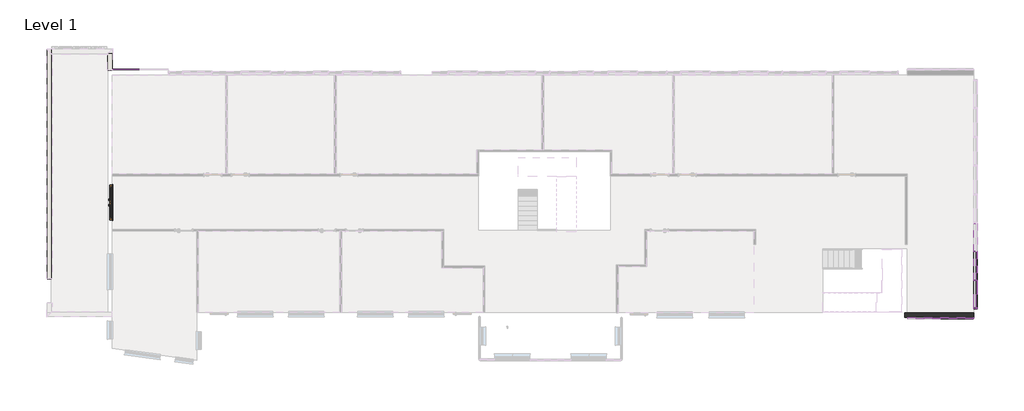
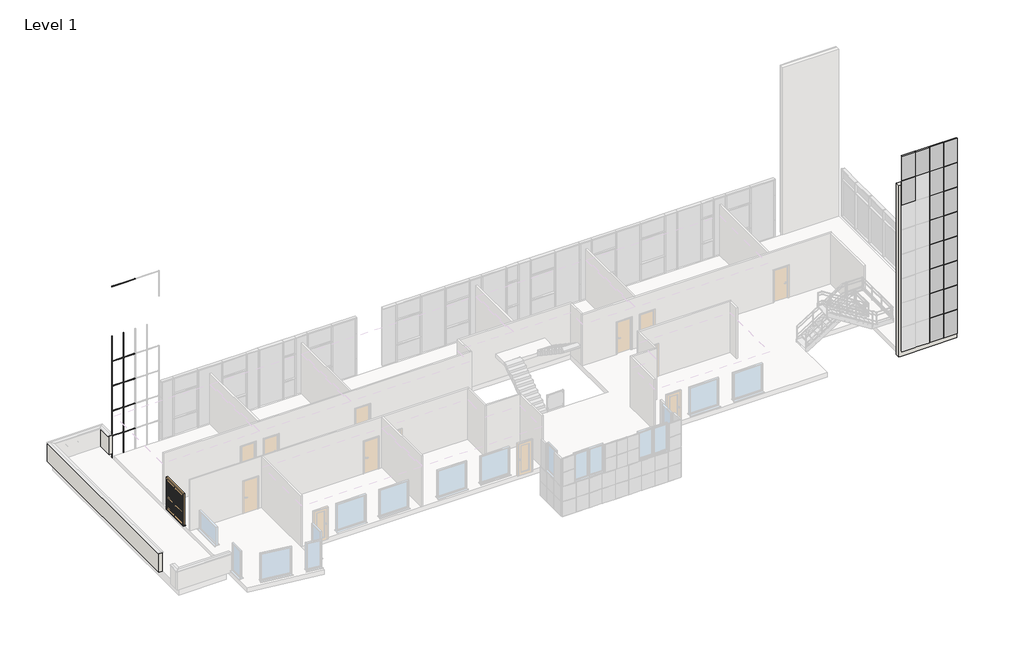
# One storey, part 3 of 10: 84 members, 23 plates, 3 walls, 1 door.
"""IFC4 building model written with IfcOpenShell, lengths in millimetres."""

from ifc_helpers import new_model, si_unit, frame, origin, place, context, project, spatial, polyline, outline, extrude, faceted_brep, transform, mapped, element, save
from components import doors_extdbl_louvre_w_transome_1810x2110mm_eca85ab6, rectangular_mullion_25x25mm_c4f882d5, rectangular_mullion_25x25mm_bd52b051, rectangular_mullion_25x25mm_aa09272d, rectangular_mullion_25x25mm_87b81b05, rectangular_mullion_25x25mm_c838776f, rectangular_mullion_25x25mm_c524c6a9, rectangular_mullion_25x25mm_a3ff25c1, rectangular_mullion_25x25mm_a7b21d2d, rectangular_mullion_25x25mm_c63ed219, rectangular_mullion_25x25mm_d2893cce, rectangular_mullion_25x25mm_a2025cdc, rectangular_mullion_25x25mm_730bac77, rectangular_mullion_25x25mm_b0a37639, rectangular_mullion_50x180mm_b21090a6, rectangular_mullion_50x180mm_c0bd3b18, rectangular_mullion_50x180mm_ec7f3dde, rectangular_mullion_50x180mm_ee9895d7, rectangular_mullion_50x180mm_69a7fca8, rectangular_mullion_50x180mm_43fab6d0, rectangular_mullion_50x180mm_84521c55, rectangular_mullion_50x180mm_f9fd6882, curtain_panels_solid_solid_panel_green_532d5a67, system_panel_glazed_7f1c0332, system_panel_glazed_68cc8840, system_panel_glazed_53acddae, system_panel_glazed_262eb8f8

model = new_model("IFC4")

# Units and contexts
model_context = context("Model", 3, world=origin())
ifc_project = project(units=[si_unit("LENGTHUNIT", "METRE", prefix="MILLI")], contexts=[model_context])

# Site, building, storey
site = spatial("IfcSite", under=ifc_project)
building = spatial("IfcBuilding", under=site)
storey = spatial("IfcBuildingStorey", under=building, Name="Level 1", Elevation=3750.0)

# Door
placement = place(None, origin())
doors_extdbl_louvre_w_transome_1810x2110mm_shape = doors_extdbl_louvre_w_transome_1810x2110mm_eca85ab6(model_context)
element("IfcDoor", 1, ObjectType="Doors_ExtDbl_Louvre_w-Transome : 1810x2110mm", at=placement, inside=storey, context=model_context, shape_type="MappedRepresentation", body=[
    mapped(doors_extdbl_louvre_w_transome_1810x2110mm_shape, transform((-1536.7223222, 2413.8986039, 3750.0), x_axis=(0.0, -1.0, 0.0), y_axis=(1.0, 0.0, 0.0), z_axis=(0.0, 0.0, 1.0))),
])

# Members
rectangular_mullion_25x25mm_shape = rectangular_mullion_25x25mm_c4f882d5(model_context)
element("IfcMember", 2, ObjectType="Rectangular Mullion : 25x25mm", at=placement, inside=storey, context=model_context, shape_type="MappedRepresentation", body=[
    mapped(rectangular_mullion_25x25mm_shape, transform((42240.5442365, -3560.0053409, 5353.125), x_axis=(0.0, 0.0, 1.0), y_axis=(0.0, 1.0, 0.0), z_axis=(-1.0, 0.0, 0.0))),
])
element("IfcMember", 3, ObjectType="Rectangular Mullion : 25x25mm", at=placement, inside=storey, context=model_context, shape_type="MappedRepresentation", body=[
    mapped(rectangular_mullion_25x25mm_shape, transform((41387.2942367, -3560.0053409, 5353.125), x_axis=(0.0, 0.0, 1.0), y_axis=(0.0, 1.0, 0.0), z_axis=(-1.0, 0.0, 0.0))),
])
element("IfcMember", 4, ObjectType="Rectangular Mullion : 25x25mm", at=placement, inside=storey, context=model_context, shape_type="MappedRepresentation", body=[
    mapped(rectangular_mullion_25x25mm_shape, transform((42240.5442365, -3560.0053409, 6943.75), x_axis=(0.0, 0.0, 1.0), y_axis=(0.0, 1.0, 0.0), z_axis=(-1.0, 0.0, 0.0))),
])
element("IfcMember", 5, ObjectType="Rectangular Mullion : 25x25mm", at=placement, inside=storey, context=model_context, shape_type="MappedRepresentation", body=[
    mapped(rectangular_mullion_25x25mm_shape, transform((41387.2942367, -3560.0053409, 6943.75), x_axis=(0.0, 0.0, 1.0), y_axis=(0.0, 1.0, 0.0), z_axis=(-1.0, 0.0, 0.0))),
])
element("IfcMember", 6, ObjectType="Rectangular Mullion : 25x25mm", at=placement, inside=storey, context=model_context, shape_type="MappedRepresentation", body=[
    mapped(rectangular_mullion_25x25mm_shape, transform((42240.5442365, -3560.0053409, 8534.375), x_axis=(0.0, 0.0, 1.0), y_axis=(0.0, 1.0, 0.0), z_axis=(-1.0, 0.0, 0.0))),
])
element("IfcMember", 7, ObjectType="Rectangular Mullion : 25x25mm", at=placement, inside=storey, context=model_context, shape_type="MappedRepresentation", body=[
    mapped(rectangular_mullion_25x25mm_shape, transform((41387.2942367, -3560.0053409, 8534.375), x_axis=(0.0, 0.0, 1.0), y_axis=(0.0, 1.0, 0.0), z_axis=(-1.0, 0.0, 0.0))),
])
element("IfcMember", 8, ObjectType="Rectangular Mullion : 25x25mm", at=placement, inside=storey, context=model_context, shape_type="MappedRepresentation", body=[
    mapped(rectangular_mullion_25x25mm_shape, transform((40534.0442368, -3560.0053409, 8534.375), x_axis=(0.0, 0.0, 1.0), y_axis=(0.0, 1.0, 0.0), z_axis=(-1.0, 0.0, 0.0))),
])
element("IfcMember", 9, ObjectType="Rectangular Mullion : 25x25mm", at=placement, inside=storey, context=model_context, shape_type="MappedRepresentation", body=[
    mapped(rectangular_mullion_25x25mm_shape, transform((42240.5442365, -3560.0053409, 10125.0), x_axis=(0.0, 0.0, 1.0), y_axis=(0.0, 1.0, 0.0), z_axis=(-1.0, 0.0, 0.0))),
])
element("IfcMember", 10, ObjectType="Rectangular Mullion : 25x25mm", at=placement, inside=storey, context=model_context, shape_type="MappedRepresentation", body=[
    mapped(rectangular_mullion_25x25mm_shape, transform((41387.2942367, -3560.0053409, 10125.0), x_axis=(0.0, 0.0, 1.0), y_axis=(0.0, 1.0, 0.0), z_axis=(-1.0, 0.0, 0.0))),
])
element("IfcMember", 11, ObjectType="Rectangular Mullion : 25x25mm", at=placement, inside=storey, context=model_context, shape_type="MappedRepresentation", body=[
    mapped(rectangular_mullion_25x25mm_shape, transform((40534.0442368, -3560.0053409, 10125.0), x_axis=(0.0, 0.0, 1.0), y_axis=(0.0, 1.0, 0.0), z_axis=(-1.0, 0.0, 0.0))),
])
element("IfcMember", 12, ObjectType="Rectangular Mullion : 25x25mm", at=placement, inside=storey, context=model_context, shape_type="MappedRepresentation", body=[
    mapped(rectangular_mullion_25x25mm_shape, transform((42240.5442365, -3560.0053409, 11715.625), x_axis=(0.0, 0.0, 1.0), y_axis=(0.0, 1.0, 0.0), z_axis=(-1.0, 0.0, 0.0))),
])
element("IfcMember", 13, ObjectType="Rectangular Mullion : 25x25mm", at=placement, inside=storey, context=model_context, shape_type="MappedRepresentation", body=[
    mapped(rectangular_mullion_25x25mm_shape, transform((41387.2942367, -3560.0053409, 11715.625), x_axis=(0.0, 0.0, 1.0), y_axis=(0.0, 1.0, 0.0), z_axis=(-1.0, 0.0, 0.0))),
])
element("IfcMember", 14, ObjectType="Rectangular Mullion : 25x25mm", at=placement, inside=storey, context=model_context, shape_type="MappedRepresentation", body=[
    mapped(rectangular_mullion_25x25mm_shape, transform((40534.0442368, -3560.0053409, 11715.625), x_axis=(0.0, 0.0, 1.0), y_axis=(0.0, 1.0, 0.0), z_axis=(-1.0, 0.0, 0.0))),
])
element("IfcMember", 15, ObjectType="Rectangular Mullion : 25x25mm", at=placement, inside=storey, context=model_context, shape_type="MappedRepresentation", body=[
    mapped(rectangular_mullion_25x25mm_shape, transform((42240.5442365, -3560.0053409, 13306.25), x_axis=(0.0, 0.0, 1.0), y_axis=(0.0, 1.0, 0.0), z_axis=(-1.0, 0.0, 0.0))),
])
element("IfcMember", 16, ObjectType="Rectangular Mullion : 25x25mm", at=placement, inside=storey, context=model_context, shape_type="MappedRepresentation", body=[
    mapped(rectangular_mullion_25x25mm_shape, transform((41387.2942367, -3560.0053409, 13306.25), x_axis=(0.0, 0.0, 1.0), y_axis=(0.0, 1.0, 0.0), z_axis=(-1.0, 0.0, 0.0))),
])
element("IfcMember", 17, ObjectType="Rectangular Mullion : 25x25mm", at=placement, inside=storey, context=model_context, shape_type="MappedRepresentation", body=[
    mapped(rectangular_mullion_25x25mm_shape, transform((40534.0442368, -3560.0053409, 13306.25), x_axis=(0.0, 0.0, 1.0), y_axis=(0.0, 1.0, 0.0), z_axis=(-1.0, 0.0, 0.0))),
])
element("IfcMember", 18, ObjectType="Rectangular Mullion : 25x25mm", at=placement, inside=storey, context=model_context, shape_type="MappedRepresentation", body=[
    mapped(rectangular_mullion_25x25mm_shape, transform((42240.5442365, -3560.0053409, 14896.875), x_axis=(0.0, 0.0, 1.0), y_axis=(0.0, 1.0, 0.0), z_axis=(-1.0, 0.0, 0.0))),
])
element("IfcMember", 19, ObjectType="Rectangular Mullion : 25x25mm", at=placement, inside=storey, context=model_context, shape_type="MappedRepresentation", body=[
    mapped(rectangular_mullion_25x25mm_shape, transform((41387.2942367, -3560.0053409, 14896.875), x_axis=(0.0, 0.0, 1.0), y_axis=(0.0, 1.0, 0.0), z_axis=(-1.0, 0.0, 0.0))),
])
element("IfcMember", 20, ObjectType="Rectangular Mullion : 25x25mm", at=placement, inside=storey, context=model_context, shape_type="MappedRepresentation", body=[
    mapped(rectangular_mullion_25x25mm_shape, transform((40534.0442368, -3560.0053409, 14896.875), x_axis=(0.0, 0.0, 1.0), y_axis=(0.0, 1.0, 0.0), z_axis=(-1.0, 0.0, 0.0))),
])
rectangular_mullion_25x25mm_2_shape = rectangular_mullion_25x25mm_bd52b051(model_context)
element("IfcMember", 21, ObjectType="Rectangular Mullion : 25x25mm", at=placement, inside=storey, context=model_context, shape_type="MappedRepresentation", body=[
    mapped(rectangular_mullion_25x25mm_2_shape, transform((-1429.2223222, 9282.4946591, 14600.0), x_axis=(0.0, 0.0, 1.0), y_axis=(0.0, 1.0, 0.0), z_axis=(-1.0, 0.0, 0.0))),
])
rectangular_mullion_25x25mm_3_shape = rectangular_mullion_25x25mm_aa09272d(model_context)
element("IfcMember", 22, ObjectType="Rectangular Mullion : 25x25mm", at=placement, inside=storey, context=model_context, shape_type="MappedRepresentation", body=[
    mapped(rectangular_mullion_25x25mm_3_shape, transform((-714.2181823, 9282.4946591, 14600.0), x_axis=(0.0, 0.0, 1.0), y_axis=(0.0, 1.0, 0.0), z_axis=(-1.0, 0.0, 0.0))),
])
element("IfcMember", 23, ObjectType="Rectangular Mullion : 25x25mm", at=placement, inside=storey, context=model_context, shape_type="MappedRepresentation", body=[
    mapped(rectangular_mullion_25x25mm_2_shape, transform((-714.2181823, 9282.4946591, 0.0), x_axis=(0.0, 0.0, -1.0), y_axis=(0.0, 1.0, 0.0), z_axis=(1.0, 0.0, 0.0))),
])
rectangular_mullion_25x25mm_4_shape = rectangular_mullion_25x25mm_87b81b05(model_context)
element("IfcMember", 24, ObjectType="Rectangular Mullion : 25x25mm", at=placement, inside=storey, context=model_context, shape_type="MappedRepresentation", body=[
    mapped(rectangular_mullion_25x25mm_4_shape, transform((-701.7181823, 9282.4946591, 1631.9444444), x_axis=(0.0, 0.0, 1.0), y_axis=(0.0, 1.0, 0.0), z_axis=(-1.0, 0.0, 0.0))),
])
element("IfcMember", 25, ObjectType="Rectangular Mullion : 25x25mm", at=placement, inside=storey, context=model_context, shape_type="MappedRepresentation", body=[
    mapped(rectangular_mullion_25x25mm_4_shape, transform((-701.7181823, 9282.4946591, 3251.3888889), x_axis=(0.0, 0.0, 1.0), y_axis=(0.0, 1.0, 0.0), z_axis=(-1.0, 0.0, 0.0))),
])
element("IfcMember", 26, ObjectType="Rectangular Mullion : 25x25mm", at=placement, inside=storey, context=model_context, shape_type="MappedRepresentation", body=[
    mapped(rectangular_mullion_25x25mm_4_shape, transform((-701.7181823, 9282.4946591, 4870.8333333), x_axis=(0.0, 0.0, 1.0), y_axis=(0.0, 1.0, 0.0), z_axis=(-1.0, 0.0, 0.0))),
])
element("IfcMember", 27, ObjectType="Rectangular Mullion : 25x25mm", at=placement, inside=storey, context=model_context, shape_type="MappedRepresentation", body=[
    mapped(rectangular_mullion_25x25mm_4_shape, transform((-701.7181823, 9282.4946591, 6490.2777778), x_axis=(0.0, 0.0, 1.0), y_axis=(0.0, 1.0, 0.0), z_axis=(-1.0, 0.0, 0.0))),
])
element("IfcMember", 28, ObjectType="Rectangular Mullion : 25x25mm", at=placement, inside=storey, context=model_context, shape_type="MappedRepresentation", body=[
    mapped(rectangular_mullion_25x25mm_4_shape, transform((-701.7181823, 9282.4946591, 8109.7222222), x_axis=(0.0, 0.0, 1.0), y_axis=(0.0, 1.0, 0.0), z_axis=(-1.0, 0.0, 0.0))),
])
element("IfcMember", 29, ObjectType="Rectangular Mullion : 25x25mm", at=placement, inside=storey, context=model_context, shape_type="MappedRepresentation", body=[
    mapped(rectangular_mullion_25x25mm_4_shape, transform((-701.7181823, 9282.4946591, 9729.1666667), x_axis=(0.0, 0.0, 1.0), y_axis=(0.0, 1.0, 0.0), z_axis=(-1.0, 0.0, 0.0))),
])
rectangular_mullion_25x25mm_5_shape = rectangular_mullion_25x25mm_c838776f(model_context)
element("IfcMember", 30, ObjectType="Rectangular Mullion : 25x25mm", at=placement, inside=storey, context=model_context, shape_type="MappedRepresentation", body=[
    mapped(rectangular_mullion_25x25mm_5_shape, transform((-1404.2223222, 9282.4946591, 1631.9444444), x_axis=(0.0, 0.0, 1.0), y_axis=(0.0, 1.0, 0.0), z_axis=(-1.0, 0.0, 0.0))),
])
element("IfcMember", 31, ObjectType="Rectangular Mullion : 25x25mm", at=placement, inside=storey, context=model_context, shape_type="MappedRepresentation", body=[
    mapped(rectangular_mullion_25x25mm_5_shape, transform((-1404.2223222, 9282.4946591, 3251.3888889), x_axis=(0.0, 0.0, 1.0), y_axis=(0.0, 1.0, 0.0), z_axis=(-1.0, 0.0, 0.0))),
])
element("IfcMember", 32, ObjectType="Rectangular Mullion : 25x25mm", at=placement, inside=storey, context=model_context, shape_type="MappedRepresentation", body=[
    mapped(rectangular_mullion_25x25mm_5_shape, transform((-1404.2223222, 9282.4946591, 4870.8333333), x_axis=(0.0, 0.0, 1.0), y_axis=(0.0, 1.0, 0.0), z_axis=(-1.0, 0.0, 0.0))),
])
element("IfcMember", 33, ObjectType="Rectangular Mullion : 25x25mm", at=placement, inside=storey, context=model_context, shape_type="MappedRepresentation", body=[
    mapped(rectangular_mullion_25x25mm_5_shape, transform((-1404.2223222, 9282.4946591, 6490.2777778), x_axis=(0.0, 0.0, 1.0), y_axis=(0.0, 1.0, 0.0), z_axis=(-1.0, 0.0, 0.0))),
])
element("IfcMember", 34, ObjectType="Rectangular Mullion : 25x25mm", at=placement, inside=storey, context=model_context, shape_type="MappedRepresentation", body=[
    mapped(rectangular_mullion_25x25mm_5_shape, transform((-1404.2223222, 9282.4946591, 8109.7222222), x_axis=(0.0, 0.0, 1.0), y_axis=(0.0, 1.0, 0.0), z_axis=(-1.0, 0.0, 0.0))),
])
element("IfcMember", 35, ObjectType="Rectangular Mullion : 25x25mm", at=placement, inside=storey, context=model_context, shape_type="MappedRepresentation", body=[
    mapped(rectangular_mullion_25x25mm_5_shape, transform((-1404.2223222, 9282.4946591, 9729.1666667), x_axis=(0.0, 0.0, 1.0), y_axis=(0.0, 1.0, 0.0), z_axis=(-1.0, 0.0, 0.0))),
])
rectangular_mullion_25x25mm_6_shape = rectangular_mullion_25x25mm_c524c6a9(model_context)
element("IfcMember", 36, ObjectType="Rectangular Mullion : 25x25mm", at=placement, inside=storey, context=model_context, shape_type="MappedRepresentation", body=[
    mapped(rectangular_mullion_25x25mm_6_shape, transform((-714.2181823, 9282.4946591, 25.0), x_axis=(-1.0, 0.0, 0.0), y_axis=(0.0, 1.0, 0.0), z_axis=(0.0, 0.0, -1.0))),
])
rectangular_mullion_25x25mm_7_shape = rectangular_mullion_25x25mm_a3ff25c1(model_context)
element("IfcMember", 37, ObjectType="Rectangular Mullion : 25x25mm", at=placement, inside=storey, context=model_context, shape_type="MappedRepresentation", body=[
    mapped(rectangular_mullion_25x25mm_7_shape, transform((-714.2181823, 9282.4946591, 1631.9444444), x_axis=(-1.0, 0.0, 0.0), y_axis=(0.0, 1.0, 0.0), z_axis=(0.0, 0.0, -1.0))),
])
element("IfcMember", 38, ObjectType="Rectangular Mullion : 25x25mm", at=placement, inside=storey, context=model_context, shape_type="MappedRepresentation", body=[
    mapped(rectangular_mullion_25x25mm_7_shape, transform((-714.2181823, 9282.4946591, 3251.3888889), x_axis=(-1.0, 0.0, 0.0), y_axis=(0.0, 1.0, 0.0), z_axis=(0.0, 0.0, -1.0))),
])
element("IfcMember", 39, ObjectType="Rectangular Mullion : 25x25mm", at=placement, inside=storey, context=model_context, shape_type="MappedRepresentation", body=[
    mapped(rectangular_mullion_25x25mm_7_shape, transform((-714.2181823, 9282.4946591, 4870.8333333), x_axis=(-1.0, 0.0, 0.0), y_axis=(0.0, 1.0, 0.0), z_axis=(0.0, 0.0, -1.0))),
])
element("IfcMember", 40, ObjectType="Rectangular Mullion : 25x25mm", at=placement, inside=storey, context=model_context, shape_type="MappedRepresentation", body=[
    mapped(rectangular_mullion_25x25mm_7_shape, transform((-714.2181823, 9282.4946591, 6490.2777778), x_axis=(-1.0, 0.0, 0.0), y_axis=(0.0, 1.0, 0.0), z_axis=(0.0, 0.0, -1.0))),
])
element("IfcMember", 41, ObjectType="Rectangular Mullion : 25x25mm", at=placement, inside=storey, context=model_context, shape_type="MappedRepresentation", body=[
    mapped(rectangular_mullion_25x25mm_7_shape, transform((-714.2181823, 9282.4946591, 8109.7222222), x_axis=(-1.0, 0.0, 0.0), y_axis=(0.0, 1.0, 0.0), z_axis=(0.0, 0.0, -1.0))),
])
element("IfcMember", 42, ObjectType="Rectangular Mullion : 25x25mm", at=placement, inside=storey, context=model_context, shape_type="MappedRepresentation", body=[
    mapped(rectangular_mullion_25x25mm_7_shape, transform((-714.2181823, 9282.4946591, 9729.1666667), x_axis=(-1.0, 0.0, 0.0), y_axis=(0.0, 1.0, 0.0), z_axis=(0.0, 0.0, -1.0))),
])
rectangular_mullion_25x25mm_8_shape = rectangular_mullion_25x25mm_a7b21d2d(model_context)
element("IfcMember", 43, ObjectType="Rectangular Mullion : 25x25mm", at=placement, inside=storey, context=model_context, shape_type="MappedRepresentation", body=[
    mapped(rectangular_mullion_25x25mm_8_shape, transform((-1429.2223222, 9282.4946591, 25.0), x_axis=(-1.0, 0.0, 0.0), y_axis=(0.0, 1.0, 0.0), z_axis=(0.0, 0.0, -1.0))),
])
rectangular_mullion_25x25mm_9_shape = rectangular_mullion_25x25mm_c63ed219(model_context)
element("IfcMember", 44, ObjectType="Rectangular Mullion : 25x25mm", at=placement, inside=storey, context=model_context, shape_type="MappedRepresentation", body=[
    mapped(rectangular_mullion_25x25mm_9_shape, transform((-1429.2223222, 9282.4946591, 1631.9444444), x_axis=(-1.0, 0.0, 0.0), y_axis=(0.0, 1.0, 0.0), z_axis=(0.0, 0.0, -1.0))),
])
element("IfcMember", 45, ObjectType="Rectangular Mullion : 25x25mm", at=placement, inside=storey, context=model_context, shape_type="MappedRepresentation", body=[
    mapped(rectangular_mullion_25x25mm_9_shape, transform((-1429.2223222, 9282.4946591, 3251.3888889), x_axis=(-1.0, 0.0, 0.0), y_axis=(0.0, 1.0, 0.0), z_axis=(0.0, 0.0, -1.0))),
])
element("IfcMember", 46, ObjectType="Rectangular Mullion : 25x25mm", at=placement, inside=storey, context=model_context, shape_type="MappedRepresentation", body=[
    mapped(rectangular_mullion_25x25mm_9_shape, transform((-1429.2223222, 9282.4946591, 4870.8333333), x_axis=(-1.0, 0.0, 0.0), y_axis=(0.0, 1.0, 0.0), z_axis=(0.0, 0.0, -1.0))),
])
element("IfcMember", 47, ObjectType="Rectangular Mullion : 25x25mm", at=placement, inside=storey, context=model_context, shape_type="MappedRepresentation", body=[
    mapped(rectangular_mullion_25x25mm_9_shape, transform((-1429.2223222, 9282.4946591, 6490.2777778), x_axis=(-1.0, 0.0, 0.0), y_axis=(0.0, 1.0, 0.0), z_axis=(0.0, 0.0, -1.0))),
])
element("IfcMember", 48, ObjectType="Rectangular Mullion : 25x25mm", at=placement, inside=storey, context=model_context, shape_type="MappedRepresentation", body=[
    mapped(rectangular_mullion_25x25mm_9_shape, transform((-1429.2223222, 9282.4946591, 8109.7222222), x_axis=(-1.0, 0.0, 0.0), y_axis=(0.0, 1.0, 0.0), z_axis=(0.0, 0.0, -1.0))),
])
element("IfcMember", 49, ObjectType="Rectangular Mullion : 25x25mm", at=placement, inside=storey, context=model_context, shape_type="MappedRepresentation", body=[
    mapped(rectangular_mullion_25x25mm_9_shape, transform((-1429.2223222, 9282.4946591, 9729.1666667), x_axis=(-1.0, 0.0, 0.0), y_axis=(0.0, 1.0, 0.0), z_axis=(0.0, 0.0, -1.0))),
])
rectangular_mullion_25x25mm_10_shape = rectangular_mullion_25x25mm_d2893cce(model_context)
element("IfcMember", 50, ObjectType="Rectangular Mullion : 25x25mm", at=placement, inside=storey, context=model_context, shape_type="MappedRepresentation", body=[
    mapped(rectangular_mullion_25x25mm_10_shape, transform((42228.0442365, -3560.0053409, 5353.125), x_axis=(-1.0, 0.0, 0.0), y_axis=(0.0, 1.0, 0.0), z_axis=(0.0, 0.0, -1.0))),
])
element("IfcMember", 51, ObjectType="Rectangular Mullion : 25x25mm", at=placement, inside=storey, context=model_context, shape_type="MappedRepresentation", body=[
    mapped(rectangular_mullion_25x25mm_10_shape, transform((42228.0442365, -3560.0053409, 6943.75), x_axis=(-1.0, 0.0, 0.0), y_axis=(0.0, 1.0, 0.0), z_axis=(0.0, 0.0, -1.0))),
])
element("IfcMember", 52, ObjectType="Rectangular Mullion : 25x25mm", at=placement, inside=storey, context=model_context, shape_type="MappedRepresentation", body=[
    mapped(rectangular_mullion_25x25mm_10_shape, transform((41374.7942367, -3560.0053409, 5353.125), x_axis=(-1.0, 0.0, 0.0), y_axis=(0.0, 1.0, 0.0), z_axis=(0.0, 0.0, -1.0))),
])
element("IfcMember", 53, ObjectType="Rectangular Mullion : 25x25mm", at=placement, inside=storey, context=model_context, shape_type="MappedRepresentation", body=[
    mapped(rectangular_mullion_25x25mm_10_shape, transform((41374.7942367, -3560.0053409, 6943.75), x_axis=(-1.0, 0.0, 0.0), y_axis=(0.0, 1.0, 0.0), z_axis=(0.0, 0.0, -1.0))),
])
element("IfcMember", 54, ObjectType="Rectangular Mullion : 25x25mm", at=placement, inside=storey, context=model_context, shape_type="MappedRepresentation", body=[
    mapped(rectangular_mullion_25x25mm_10_shape, transform((42228.0442365, -3560.0053409, 8534.375), x_axis=(-1.0, 0.0, 0.0), y_axis=(0.0, 1.0, 0.0), z_axis=(0.0, 0.0, -1.0))),
])
element("IfcMember", 55, ObjectType="Rectangular Mullion : 25x25mm", at=placement, inside=storey, context=model_context, shape_type="MappedRepresentation", body=[
    mapped(rectangular_mullion_25x25mm_10_shape, transform((42228.0442365, -3560.0053409, 10125.0), x_axis=(-1.0, 0.0, 0.0), y_axis=(0.0, 1.0, 0.0), z_axis=(0.0, 0.0, -1.0))),
])
element("IfcMember", 56, ObjectType="Rectangular Mullion : 25x25mm", at=placement, inside=storey, context=model_context, shape_type="MappedRepresentation", body=[
    mapped(rectangular_mullion_25x25mm_10_shape, transform((42228.0442365, -3560.0053409, 11715.625), x_axis=(-1.0, 0.0, 0.0), y_axis=(0.0, 1.0, 0.0), z_axis=(0.0, 0.0, -1.0))),
])
element("IfcMember", 57, ObjectType="Rectangular Mullion : 25x25mm", at=placement, inside=storey, context=model_context, shape_type="MappedRepresentation", body=[
    mapped(rectangular_mullion_25x25mm_10_shape, transform((42228.0442365, -3560.0053409, 13306.25), x_axis=(-1.0, 0.0, 0.0), y_axis=(0.0, 1.0, 0.0), z_axis=(0.0, 0.0, -1.0))),
])
element("IfcMember", 58, ObjectType="Rectangular Mullion : 25x25mm", at=placement, inside=storey, context=model_context, shape_type="MappedRepresentation", body=[
    mapped(rectangular_mullion_25x25mm_10_shape, transform((41374.7942367, -3560.0053409, 8534.375), x_axis=(-1.0, 0.0, 0.0), y_axis=(0.0, 1.0, 0.0), z_axis=(0.0, 0.0, -1.0))),
])
element("IfcMember", 59, ObjectType="Rectangular Mullion : 25x25mm", at=placement, inside=storey, context=model_context, shape_type="MappedRepresentation", body=[
    mapped(rectangular_mullion_25x25mm_10_shape, transform((41374.7942367, -3560.0053409, 10125.0), x_axis=(-1.0, 0.0, 0.0), y_axis=(0.0, 1.0, 0.0), z_axis=(0.0, 0.0, -1.0))),
])
element("IfcMember", 60, ObjectType="Rectangular Mullion : 25x25mm", at=placement, inside=storey, context=model_context, shape_type="MappedRepresentation", body=[
    mapped(rectangular_mullion_25x25mm_10_shape, transform((41374.7942367, -3560.0053409, 11715.625), x_axis=(-1.0, 0.0, 0.0), y_axis=(0.0, 1.0, 0.0), z_axis=(0.0, 0.0, -1.0))),
])
element("IfcMember", 61, ObjectType="Rectangular Mullion : 25x25mm", at=placement, inside=storey, context=model_context, shape_type="MappedRepresentation", body=[
    mapped(rectangular_mullion_25x25mm_10_shape, transform((41374.7942367, -3560.0053409, 13306.25), x_axis=(-1.0, 0.0, 0.0), y_axis=(0.0, 1.0, 0.0), z_axis=(0.0, 0.0, -1.0))),
])
element("IfcMember", 62, ObjectType="Rectangular Mullion : 25x25mm", at=placement, inside=storey, context=model_context, shape_type="MappedRepresentation", body=[
    mapped(rectangular_mullion_25x25mm_10_shape, transform((40521.5442368, -3560.0053409, 8534.375), x_axis=(-1.0, 0.0, 0.0), y_axis=(0.0, 1.0, 0.0), z_axis=(0.0, 0.0, -1.0))),
])
element("IfcMember", 63, ObjectType="Rectangular Mullion : 25x25mm", at=placement, inside=storey, context=model_context, shape_type="MappedRepresentation", body=[
    mapped(rectangular_mullion_25x25mm_10_shape, transform((40521.5442368, -3560.0053409, 10125.0), x_axis=(-1.0, 0.0, 0.0), y_axis=(0.0, 1.0, 0.0), z_axis=(0.0, 0.0, -1.0))),
])
element("IfcMember", 64, ObjectType="Rectangular Mullion : 25x25mm", at=placement, inside=storey, context=model_context, shape_type="MappedRepresentation", body=[
    mapped(rectangular_mullion_25x25mm_10_shape, transform((40521.5442368, -3560.0053409, 11715.625), x_axis=(-1.0, 0.0, 0.0), y_axis=(0.0, 1.0, 0.0), z_axis=(0.0, 0.0, -1.0))),
])
element("IfcMember", 65, ObjectType="Rectangular Mullion : 25x25mm", at=placement, inside=storey, context=model_context, shape_type="MappedRepresentation", body=[
    mapped(rectangular_mullion_25x25mm_10_shape, transform((40521.5442368, -3560.0053409, 13306.25), x_axis=(-1.0, 0.0, 0.0), y_axis=(0.0, 1.0, 0.0), z_axis=(0.0, 0.0, -1.0))),
])
rectangular_mullion_25x25mm_11_shape = rectangular_mullion_25x25mm_a2025cdc(model_context)
element("IfcMember", 66, ObjectType="Rectangular Mullion : 25x25mm", at=placement, inside=storey, context=model_context, shape_type="MappedRepresentation", body=[
    mapped(rectangular_mullion_25x25mm_11_shape, transform((43093.7942367, -3560.0053409, 5353.125), x_axis=(1.0, 0.0, 0.0), y_axis=(0.0, 1.0, 0.0), z_axis=(0.0, 0.0, 1.0))),
])
rectangular_mullion_25x25mm_12_shape = rectangular_mullion_25x25mm_730bac77(model_context)
element("IfcMember", 67, ObjectType="Rectangular Mullion : 25x25mm", at=placement, inside=storey, context=model_context, shape_type="MappedRepresentation", body=[
    mapped(rectangular_mullion_25x25mm_12_shape, transform((43093.7942367, -3560.0053409, 6943.75), x_axis=(1.0, 0.0, 0.0), y_axis=(0.0, 1.0, 0.0), z_axis=(0.0, 0.0, 1.0))),
])
element("IfcMember", 68, ObjectType="Rectangular Mullion : 25x25mm", at=placement, inside=storey, context=model_context, shape_type="MappedRepresentation", body=[
    mapped(rectangular_mullion_25x25mm_12_shape, transform((43093.7942367, -3560.0053409, 8534.375), x_axis=(1.0, 0.0, 0.0), y_axis=(0.0, 1.0, 0.0), z_axis=(0.0, 0.0, 1.0))),
])
element("IfcMember", 69, ObjectType="Rectangular Mullion : 25x25mm", at=placement, inside=storey, context=model_context, shape_type="MappedRepresentation", body=[
    mapped(rectangular_mullion_25x25mm_12_shape, transform((43093.7942367, -3560.0053409, 10125.0), x_axis=(1.0, 0.0, 0.0), y_axis=(0.0, 1.0, 0.0), z_axis=(0.0, 0.0, 1.0))),
])
element("IfcMember", 70, ObjectType="Rectangular Mullion : 25x25mm", at=placement, inside=storey, context=model_context, shape_type="MappedRepresentation", body=[
    mapped(rectangular_mullion_25x25mm_12_shape, transform((43093.7942367, -3560.0053409, 11715.625), x_axis=(1.0, 0.0, 0.0), y_axis=(0.0, 1.0, 0.0), z_axis=(0.0, 0.0, 1.0))),
])
element("IfcMember", 71, ObjectType="Rectangular Mullion : 25x25mm", at=placement, inside=storey, context=model_context, shape_type="MappedRepresentation", body=[
    mapped(rectangular_mullion_25x25mm_12_shape, transform((43093.7942367, -3560.0053409, 13306.25), x_axis=(1.0, 0.0, 0.0), y_axis=(0.0, 1.0, 0.0), z_axis=(0.0, 0.0, 1.0))),
])
element("IfcMember", 72, ObjectType="Rectangular Mullion : 25x25mm", at=placement, inside=storey, context=model_context, shape_type="MappedRepresentation", body=[
    mapped(rectangular_mullion_25x25mm_12_shape, transform((43093.7942367, -3560.0053409, 14896.875), x_axis=(1.0, 0.0, 0.0), y_axis=(0.0, 1.0, 0.0), z_axis=(0.0, 0.0, 1.0))),
])
rectangular_mullion_25x25mm_13_shape = rectangular_mullion_25x25mm_b0a37639(model_context)
element("IfcMember", 73, ObjectType="Rectangular Mullion : 25x25mm", at=placement, inside=storey, context=model_context, shape_type="MappedRepresentation", body=[
    mapped(rectangular_mullion_25x25mm_13_shape, transform((42228.0442365, -3560.0053409, 14896.875), x_axis=(-1.0, 0.0, 0.0), y_axis=(0.0, 1.0, 0.0), z_axis=(0.0, 0.0, -1.0))),
])
element("IfcMember", 74, ObjectType="Rectangular Mullion : 25x25mm", at=placement, inside=storey, context=model_context, shape_type="MappedRepresentation", body=[
    mapped(rectangular_mullion_25x25mm_13_shape, transform((41374.7942367, -3560.0053409, 14896.875), x_axis=(-1.0, 0.0, 0.0), y_axis=(0.0, 1.0, 0.0), z_axis=(0.0, 0.0, -1.0))),
])
element("IfcMember", 75, ObjectType="Rectangular Mullion : 25x25mm", at=placement, inside=storey, context=model_context, shape_type="MappedRepresentation", body=[
    mapped(rectangular_mullion_25x25mm_13_shape, transform((40521.5442368, -3560.0053409, 14896.875), x_axis=(-1.0, 0.0, 0.0), y_axis=(0.0, 1.0, 0.0), z_axis=(0.0, 0.0, -1.0))),
])
rectangular_mullion_50x180mm_shape = rectangular_mullion_50x180mm_b21090a6(model_context)
element("IfcMember", 76, ObjectType="Rectangular Mullion : 50x180mm", at=placement, inside=storey, context=model_context, shape_type="MappedRepresentation", body=[
    mapped(rectangular_mullion_50x180mm_shape, transform((43193.2942367, -3090.0053409, 3900.0), x_axis=(0.0, -1.0, 0.0), y_axis=(-1.0, 0.0, 0.0), z_axis=(0.0, 0.0, -1.0))),
])
rectangular_mullion_50x180mm_2_shape = rectangular_mullion_50x180mm_c0bd3b18(model_context)
element("IfcMember", 77, ObjectType="Rectangular Mullion : 50x180mm", at=placement, inside=storey, context=model_context, shape_type="MappedRepresentation", body=[
    mapped(rectangular_mullion_50x180mm_2_shape, transform((43193.2942367, -3040.0053409, 6965.0), x_axis=(0.0, 0.0, 1.0), y_axis=(-1.0, 0.0, 0.0), z_axis=(0.0, -1.0, 0.0))),
])
rectangular_mullion_50x180mm_3_shape = rectangular_mullion_50x180mm_ec7f3dde(model_context)
element("IfcMember", 78, ObjectType="Rectangular Mullion : 50x180mm", at=placement, inside=storey, context=model_context, shape_type="MappedRepresentation", body=[
    mapped(rectangular_mullion_50x180mm_3_shape, transform((43193.2942367, -124.3803407, 6300.0), x_axis=(0.0, 0.0, 1.0), y_axis=(-1.0, 0.0, 0.0), z_axis=(0.0, -1.0, 0.0))),
])
rectangular_mullion_50x180mm_4_shape = rectangular_mullion_50x180mm_ee9895d7(model_context)
element("IfcMember", 79, ObjectType="Rectangular Mullion : 50x180mm", at=placement, inside=storey, context=model_context, shape_type="MappedRepresentation", body=[
    mapped(rectangular_mullion_50x180mm_4_shape, transform((43193.2942367, -124.3803407, 6965.0), x_axis=(0.0, 0.0, 1.0), y_axis=(-1.0, 0.0, 0.0), z_axis=(0.0, -1.0, 0.0))),
])
rectangular_mullion_50x180mm_5_shape = rectangular_mullion_50x180mm_69a7fca8(model_context)
element("IfcMember", 80, ObjectType="Rectangular Mullion : 50x180mm", at=placement, inside=storey, context=model_context, shape_type="MappedRepresentation", body=[
    mapped(rectangular_mullion_50x180mm_5_shape, transform((43193.2942367, -1607.1928406, 6965.0), x_axis=(0.0, 0.0, 1.0), y_axis=(-1.0, 0.0, 0.0), z_axis=(0.0, -1.0, 0.0))),
])
element("IfcMember", 81, ObjectType="Rectangular Mullion : 50x180mm", at=placement, inside=storey, context=model_context, shape_type="MappedRepresentation", body=[
    mapped(rectangular_mullion_50x180mm_5_shape, transform((43193.2942367, -124.3803407, 3900.0), x_axis=(0.0, 0.0, -1.0), y_axis=(-1.0, 0.0, 0.0), z_axis=(0.0, 1.0, 0.0))),
])
element("IfcMember", 82, ObjectType="Rectangular Mullion : 50x180mm", at=placement, inside=storey, context=model_context, shape_type="MappedRepresentation", body=[
    mapped(rectangular_mullion_50x180mm_2_shape, transform((43193.2942367, -1607.1928406, 3900.0), x_axis=(0.0, 0.0, -1.0), y_axis=(-1.0, 0.0, 0.0), z_axis=(0.0, 1.0, 0.0))),
])
rectangular_mullion_50x180mm_6_shape = rectangular_mullion_50x180mm_43fab6d0(model_context)
element("IfcMember", 83, ObjectType="Rectangular Mullion : 50x180mm", at=placement, inside=storey, context=model_context, shape_type="MappedRepresentation", body=[
    mapped(rectangular_mullion_50x180mm_6_shape, transform((43193.2942367, -1607.1928406, 6300.0), x_axis=(0.0, 0.0, 1.0), y_axis=(-1.0, 0.0, 0.0), z_axis=(0.0, -1.0, 0.0))),
])
rectangular_mullion_50x180mm_7_shape = rectangular_mullion_50x180mm_84521c55(model_context)
element("IfcMember", 84, ObjectType="Rectangular Mullion : 50x180mm", at=placement, inside=storey, context=model_context, shape_type="MappedRepresentation", body=[
    mapped(rectangular_mullion_50x180mm_7_shape, transform((43193.2942367, -3040.0053409, 6300.0), x_axis=(0.0, 0.0, 1.0), y_axis=(-1.0, 0.0, 0.0), z_axis=(0.0, -1.0, 0.0))),
])
rectangular_mullion_50x180mm_8_shape = rectangular_mullion_50x180mm_f9fd6882(model_context)
element("IfcMember", 85, ObjectType="Rectangular Mullion : 50x180mm", at=placement, inside=storey, context=model_context, shape_type="MappedRepresentation", body=[
    mapped(rectangular_mullion_50x180mm_8_shape, transform((43193.2942367, -3090.0053409, 6300.0), x_axis=(0.0, -1.0, 0.0), y_axis=(-1.0, 0.0, 0.0), z_axis=(0.0, 0.0, -1.0))),
])

# Plates
curtain_panels_solid_solid_panel_green_shape = curtain_panels_solid_solid_panel_green_532d5a67(model_context)
element("IfcPlate", 86, ObjectType="Curtain_Panels_Solid : Solid_Panel_Green", at=placement, inside=storey, context=model_context, shape_type="MappedRepresentation", body=[
    mapped(curtain_panels_solid_solid_panel_green_shape, transform((42654.6692366, -3560.0053409, 3775.0), x_axis=(-1.0, 0.0, 0.0), y_axis=(0.0, -1.0, 0.0), z_axis=(0.0, 0.0, 1.0))),
])
element("IfcPlate", 87, ObjectType="Curtain_Panels_Solid : Solid_Panel_Green", at=placement, inside=storey, context=model_context, shape_type="MappedRepresentation", body=[
    mapped(curtain_panels_solid_solid_panel_green_shape, transform((41801.4192366, -3560.0053409, 3775.0), x_axis=(-1.0, 0.0, 0.0), y_axis=(0.0, -1.0, 0.0), z_axis=(0.0, 0.0, 1.0))),
])
element("IfcPlate", 88, ObjectType="Curtain_Panels_Solid : Solid_Panel_Green", at=placement, inside=storey, context=model_context, shape_type="MappedRepresentation", body=[
    mapped(curtain_panels_solid_solid_panel_green_shape, transform((42654.6692366, -3560.0053409, 5365.625), x_axis=(-1.0, 0.0, 0.0), y_axis=(0.0, -1.0, 0.0), z_axis=(0.0, 0.0, 1.0))),
])
element("IfcPlate", 89, ObjectType="Curtain_Panels_Solid : Solid_Panel_Green", at=placement, inside=storey, context=model_context, shape_type="MappedRepresentation", body=[
    mapped(curtain_panels_solid_solid_panel_green_shape, transform((41801.4192366, -3560.0053409, 5365.625), x_axis=(-1.0, 0.0, 0.0), y_axis=(0.0, -1.0, 0.0), z_axis=(0.0, 0.0, 1.0))),
])
element("IfcPlate", 90, ObjectType="Curtain_Panels_Solid : Solid_Panel_Green", at=placement, inside=storey, context=model_context, shape_type="MappedRepresentation", body=[
    mapped(curtain_panels_solid_solid_panel_green_shape, transform((42654.6692366, -3560.0053409, 6956.25), x_axis=(-1.0, 0.0, 0.0), y_axis=(0.0, -1.0, 0.0), z_axis=(0.0, 0.0, 1.0))),
])
element("IfcPlate", 91, ObjectType="Curtain_Panels_Solid : Solid_Panel_Green", at=placement, inside=storey, context=model_context, shape_type="MappedRepresentation", body=[
    mapped(curtain_panels_solid_solid_panel_green_shape, transform((41801.4192366, -3560.0053409, 6956.25), x_axis=(-1.0, 0.0, 0.0), y_axis=(0.0, -1.0, 0.0), z_axis=(0.0, 0.0, 1.0))),
])
element("IfcPlate", 92, ObjectType="Curtain_Panels_Solid : Solid_Panel_Green", at=placement, inside=storey, context=model_context, shape_type="MappedRepresentation", body=[
    mapped(curtain_panels_solid_solid_panel_green_shape, transform((42654.6692366, -3560.0053409, 8546.875), x_axis=(-1.0, 0.0, 0.0), y_axis=(0.0, -1.0, 0.0), z_axis=(0.0, 0.0, 1.0))),
])
element("IfcPlate", 93, ObjectType="Curtain_Panels_Solid : Solid_Panel_Green", at=placement, inside=storey, context=model_context, shape_type="MappedRepresentation", body=[
    mapped(curtain_panels_solid_solid_panel_green_shape, transform((41801.4192366, -3560.0053409, 8546.875), x_axis=(-1.0, 0.0, 0.0), y_axis=(0.0, -1.0, 0.0), z_axis=(0.0, 0.0, 1.0))),
])
element("IfcPlate", 94, ObjectType="Curtain_Panels_Solid : Solid_Panel_Green", at=placement, inside=storey, context=model_context, shape_type="MappedRepresentation", body=[
    mapped(curtain_panels_solid_solid_panel_green_shape, transform((42654.6692366, -3560.0053409, 10137.5), x_axis=(-1.0, 0.0, 0.0), y_axis=(0.0, -1.0, 0.0), z_axis=(0.0, 0.0, 1.0))),
])
element("IfcPlate", 95, ObjectType="Curtain_Panels_Solid : Solid_Panel_Green", at=placement, inside=storey, context=model_context, shape_type="MappedRepresentation", body=[
    mapped(curtain_panels_solid_solid_panel_green_shape, transform((41801.4192366, -3560.0053409, 10137.5), x_axis=(-1.0, 0.0, 0.0), y_axis=(0.0, -1.0, 0.0), z_axis=(0.0, 0.0, 1.0))),
])
element("IfcPlate", 96, ObjectType="Curtain_Panels_Solid : Solid_Panel_Green", at=placement, inside=storey, context=model_context, shape_type="MappedRepresentation", body=[
    mapped(curtain_panels_solid_solid_panel_green_shape, transform((42654.6692366, -3560.0053409, 11728.125), x_axis=(-1.0, 0.0, 0.0), y_axis=(0.0, -1.0, 0.0), z_axis=(0.0, 0.0, 1.0))),
])
element("IfcPlate", 97, ObjectType="Curtain_Panels_Solid : Solid_Panel_Green", at=placement, inside=storey, context=model_context, shape_type="MappedRepresentation", body=[
    mapped(curtain_panels_solid_solid_panel_green_shape, transform((41801.4192366, -3560.0053409, 11728.125), x_axis=(-1.0, 0.0, 0.0), y_axis=(0.0, -1.0, 0.0), z_axis=(0.0, 0.0, 1.0))),
])
element("IfcPlate", 98, ObjectType="Curtain_Panels_Solid : Solid_Panel_Green", at=placement, inside=storey, context=model_context, shape_type="MappedRepresentation", body=[
    mapped(curtain_panels_solid_solid_panel_green_shape, transform((42654.6692366, -3560.0053409, 13318.75), x_axis=(-1.0, 0.0, 0.0), y_axis=(0.0, -1.0, 0.0), z_axis=(0.0, 0.0, 1.0))),
])
element("IfcPlate", 99, ObjectType="Curtain_Panels_Solid : Solid_Panel_Green", at=placement, inside=storey, context=model_context, shape_type="MappedRepresentation", body=[
    mapped(curtain_panels_solid_solid_panel_green_shape, transform((41801.4192366, -3560.0053409, 13318.75), x_axis=(-1.0, 0.0, 0.0), y_axis=(0.0, -1.0, 0.0), z_axis=(0.0, 0.0, 1.0))),
])
element("IfcPlate", 100, ObjectType="Curtain_Panels_Solid : Solid_Panel_Green", at=placement, inside=storey, context=model_context, shape_type="MappedRepresentation", body=[
    mapped(curtain_panels_solid_solid_panel_green_shape, transform((40094.9192368, -3560.0053409, 13318.75), x_axis=(-1.0, 0.0, 0.0), y_axis=(0.0, -1.0, 0.0), z_axis=(0.0, 0.0, 1.0))),
])
element("IfcPlate", 101, ObjectType="Curtain_Panels_Solid : Solid_Panel_Green", at=placement, inside=storey, context=model_context, shape_type="MappedRepresentation", body=[
    mapped(curtain_panels_solid_solid_panel_green_shape, transform((42654.6692366, -3560.0053409, 14909.375), x_axis=(-1.0, 0.0, 0.0), y_axis=(0.0, -1.0, 0.0), z_axis=(0.0, 0.0, 1.0))),
])
element("IfcPlate", 102, ObjectType="Curtain_Panels_Solid : Solid_Panel_Green", at=placement, inside=storey, context=model_context, shape_type="MappedRepresentation", body=[
    mapped(curtain_panels_solid_solid_panel_green_shape, transform((41801.4192366, -3560.0053409, 14909.375), x_axis=(-1.0, 0.0, 0.0), y_axis=(0.0, -1.0, 0.0), z_axis=(0.0, 0.0, 1.0))),
])
element("IfcPlate", 103, ObjectType="Curtain_Panels_Solid : Solid_Panel_Green", at=placement, inside=storey, context=model_context, shape_type="MappedRepresentation", body=[
    mapped(curtain_panels_solid_solid_panel_green_shape, transform((40948.1692368, -3560.0053409, 14909.375), x_axis=(-1.0, 0.0, 0.0), y_axis=(0.0, -1.0, 0.0), z_axis=(0.0, 0.0, 1.0))),
])
element("IfcPlate", 104, ObjectType="Curtain_Panels_Solid : Solid_Panel_Green", at=placement, inside=storey, context=model_context, shape_type="MappedRepresentation", body=[
    mapped(curtain_panels_solid_solid_panel_green_shape, transform((40094.9192368, -3560.0053409, 14909.375), x_axis=(-1.0, 0.0, 0.0), y_axis=(0.0, -1.0, 0.0), z_axis=(0.0, 0.0, 1.0))),
])
system_panel_glazed_shape = system_panel_glazed_7f1c0332(model_context)
element("IfcPlate", 105, ObjectType="System Panel : Glazed", at=placement, inside=storey, context=model_context, shape_type="MappedRepresentation", body=[
    mapped(system_panel_glazed_shape, transform((43193.2942367, -2323.5990907, 3950.0), x_axis=(0.0, -1.0, 0.0), y_axis=(1.0, 0.0, 0.0), z_axis=(0.0, 0.0, 1.0))),
])
system_panel_glazed_2_shape = system_panel_glazed_68cc8840(model_context)
element("IfcPlate", 106, ObjectType="System Panel : Glazed", at=placement, inside=storey, context=model_context, shape_type="MappedRepresentation", body=[
    mapped(system_panel_glazed_2_shape, transform((43193.2942367, -865.7865907, 3950.0), x_axis=(0.0, -1.0, 0.0), y_axis=(1.0, 0.0, 0.0), z_axis=(0.0, 0.0, 1.0))),
])
system_panel_glazed_3_shape = system_panel_glazed_53acddae(model_context)
element("IfcPlate", 107, ObjectType="System Panel : Glazed", at=placement, inside=storey, context=model_context, shape_type="MappedRepresentation", body=[
    mapped(system_panel_glazed_3_shape, transform((43193.2942367, -2323.5990907, 6325.0), x_axis=(0.0, -1.0, 0.0), y_axis=(1.0, 0.0, 0.0), z_axis=(0.0, 0.0, 1.0))),
])
system_panel_glazed_4_shape = system_panel_glazed_262eb8f8(model_context)
element("IfcPlate", 108, ObjectType="System Panel : Glazed", at=placement, inside=storey, context=model_context, shape_type="MappedRepresentation", body=[
    mapped(system_panel_glazed_4_shape, transform((43193.2942367, -865.7865907, 6325.0), x_axis=(0.0, -1.0, 0.0), y_axis=(1.0, 0.0, 0.0), z_axis=(0.0, 0.0, 1.0))),
])

# Walls
element("IfcWall", 109, ObjectType="Wall-Ext_215Bwk_Coping", at=placement, inside=storey, context=model_context, shape_type="SweptSolid", body=[
    extrude(outline(polyline([(-1644.2223222, 9259.9946591), (-1644.2223222, 10124.9946591), (-1429.2223222, 10124.9946591), (-1429.2223222, 9259.9946591), (-1644.2223222, 9259.9946591)])), frame((0.0, 0.0, 3750.0), z_axis=(0.0, 0.0, 1.0), x_axis=(1.0, 0.0, 0.0)), (0.0, 0.0, 1.0), 1200.0),
])
element("IfcWall", 110, ObjectType="Wall-Ext_215Bwk_Coping", at=placement, inside=storey, context=model_context, shape_type="Brep", body=[
    faceted_brep([(-4569.2057633, -1535.0053409, 3750.0), (-4569.2057633, 10124.9946591, 3750.0), (-4569.2057633, 10339.9946591, 3750.0), (-4569.2057633, 10339.9946591, 4950.0), (-4569.2057633, 10124.9946591, 4950.0), (-4569.2057633, -1535.0053409, 4950.0), (-4784.2057633, -1535.0053409, 3750.0), (-4784.2057633, -1535.0053409, 4950.0), (-4784.2057633, 10339.9946591, 4950.0), (-4784.2057633, 10339.9946591, 3750.0)], [[[0, 1, 2, 3, 4, 5]], [[6, 7, 8, 9]], [[2, 1, 0, 6, 9]], [[5, 4, 3, 8, 7]], [[0, 5, 7, 6]], [[3, 2, 9, 8]]]),
])
element("IfcWall", 111, ObjectType="Wall-Ext_250-Concrete", at=placement, inside=storey, context=model_context, shape_type="Brep", body=[
    faceted_brep([(43093.2942367, -3285.0053409, 3450.0), (39655.7942367, -3285.0053409, 3450.0), (39530.7942367, -3285.0053409, 3450.0), (39530.7942367, -3285.0053409, 14600.0), (39655.7942367, -3285.0053409, 14600.0), (43093.2942367, -3285.0053409, 14600.0), (43093.2942367, -3535.0053409, 3450.0), (43093.2942367, -3535.0053409, 14600.0), (39530.7942367, -3535.0053409, 14600.0), (39530.7942367, -3535.0053409, 3450.0), (39655.7942367, -3535.0053409, 3450.0)], [[[0, 1, 2, 3, 4, 5]], [[6, 7, 8, 9, 10]], [[2, 1, 0, 6, 10, 9]], [[3, 2, 9, 8]], [[5, 4, 3, 8, 7]], [[0, 5, 7, 6]]]),
])

save(model, "model.ifc")
